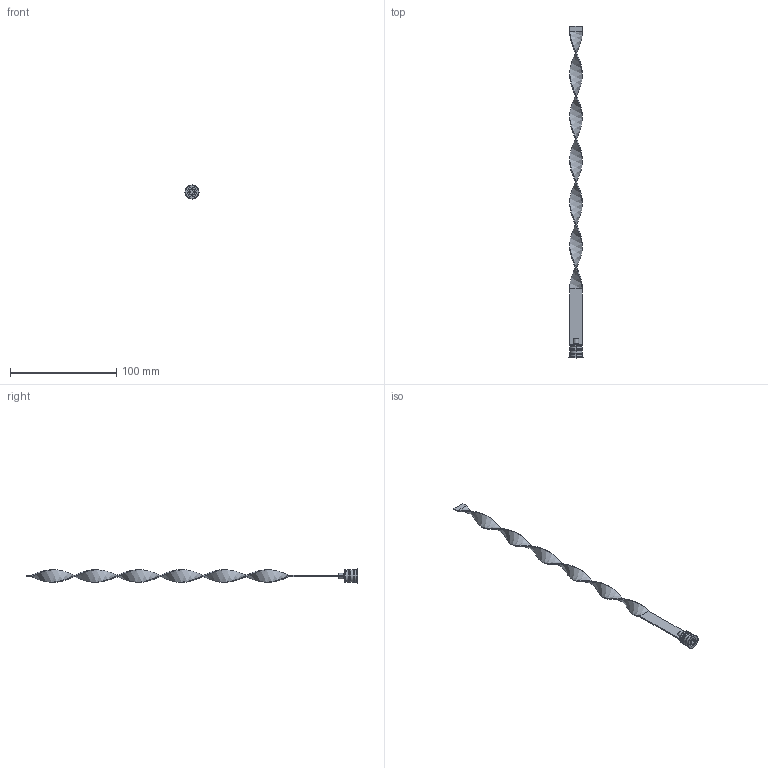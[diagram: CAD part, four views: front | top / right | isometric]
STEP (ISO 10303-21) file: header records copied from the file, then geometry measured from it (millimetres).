
FILE_DESCRIPTION (( 'STEP AP203' ), '1' );
FILE_NAME ('RLS-12Fx300.STEP', '2015-12-04T14:49:03', ( 'Balzi' ), ( '' ), 'SwSTEP 2.0', 'SolidWorks 2015', '' );
FILE_SCHEMA (( 'CONFIG_CONTROL_DESIGN' ));
Length unit declared in the file: millimetre
Products named in the file (1): RLS-12Fx300
Bounding box: 13.3 x 312.5 x 13.3 mm (x, y, z)
Volume: 4904 mm3; surface area: 8952.6 mm2
Topology: 1 solids, 1 shells, 80 faces, 187 edges, 113 vertices
Faces by surface type: plane 34, cylinder 17, cone 17, torus 8, bspline 4
Entity records: 4637 total; most frequent: CARTESIAN_POINT 2739, DIRECTION 390, ORIENTED_EDGE 374, EDGE_CURVE 187, AXIS2_PLACEMENT_3D 144, VERTEX_POINT 113, VECTOR 102, LINE 102
